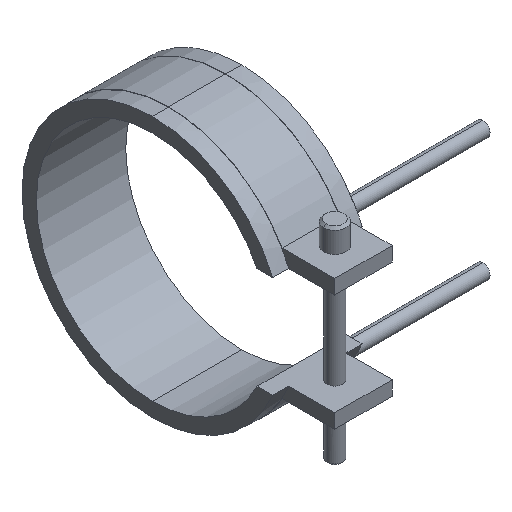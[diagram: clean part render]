
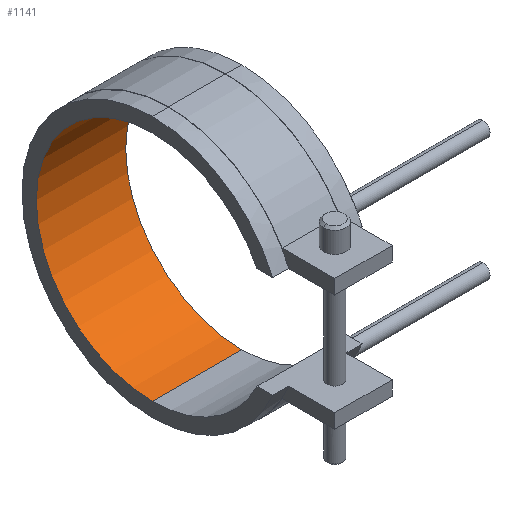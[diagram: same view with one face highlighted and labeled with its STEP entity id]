
A CAD part, isometric view. The second image highlights one B-rep face of the part: STEP entity #1141.
In plain terms, the highlighted cylindrical face has radius 32.5 mm (diameter 65 mm), a partial arc.
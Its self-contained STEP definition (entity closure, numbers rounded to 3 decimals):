
#822=CARTESIAN_POINT('Vertex',(-12.5,0.,-32.5)) ;
#829=CARTESIAN_POINT('Vertex',(12.5,0.,-32.5)) ;
#832=CARTESIAN_POINT('Line Origine',(12.5,0.,-32.5)) ;
#850=CARTESIAN_POINT('Axis2P3D Location',(-12.5,0.,0.)) ;
#854=CARTESIAN_POINT('Vertex',(-12.5,0.,32.5)) ;
#911=CARTESIAN_POINT('Vertex',(12.5,0.,32.5)) ;
#921=CARTESIAN_POINT('Line Origine',(12.5,0.,32.5)) ;
#1012=CARTESIAN_POINT('Axis2P3D Location',(12.5,0.,0.)) ;
#1130=CARTESIAN_POINT('Axis2P3D Location',(12.5,0.,0.)) ;
#833=DIRECTION('Vector Direction',(1.,0.,0.)) ;
#851=DIRECTION('Axis2P3D Direction',(1.,0.,0.)) ;
#922=DIRECTION('Vector Direction',(1.,0.,0.)) ;
#1013=DIRECTION('Axis2P3D Direction',(1.,0.,0.)) ;
#1131=DIRECTION('Axis2P3D Direction',(1.,0.,-0.)) ;
#1132=DIRECTION('Axis2P3D XDirection',(0.,0.,-1.)) ;
#852=AXIS2_PLACEMENT_3D('Circle Axis2P3D',#850,#851,$) ;
#1014=AXIS2_PLACEMENT_3D('Circle Axis2P3D',#1012,#1013,$) ;
#1133=AXIS2_PLACEMENT_3D('Cylinder Axis2P3D',#1130,#1131,#1132) ;
#1136=ORIENTED_EDGE('',*,*,#1016,.T.) ;
#1137=ORIENTED_EDGE('',*,*,#925,.T.) ;
#1138=ORIENTED_EDGE('',*,*,#856,.F.) ;
#1139=ORIENTED_EDGE('',*,*,#836,.T.) ;
#834=VECTOR('Line Direction',#833,1.) ;
#923=VECTOR('Line Direction',#922,1.) ;
#1141=ADVANCED_FACE('14065025',(#1140),#1134,.F.) ;
#853=CIRCLE('generated circle',#852,32.5) ;
#1015=CIRCLE('generated circle',#1014,32.5) ;
#1134=CYLINDRICAL_SURFACE('generated cylinder',#1133,32.5) ;
#836=EDGE_CURVE('',#823,#830,#835,.T.) ;
#856=EDGE_CURVE('',#823,#855,#853,.T.) ;
#925=EDGE_CURVE('',#912,#855,#924,.F.) ;
#1016=EDGE_CURVE('',#830,#912,#1015,.T.) ;
#1135=EDGE_LOOP('',(#1136,#1137,#1138,#1139)) ;
#1140=FACE_OUTER_BOUND('',#1135,.T.) ;
#835=LINE('Line',#832,#834) ;
#924=LINE('Line',#921,#923) ;
#823=VERTEX_POINT('',#822) ;
#830=VERTEX_POINT('',#829) ;
#855=VERTEX_POINT('',#854) ;
#912=VERTEX_POINT('',#911) ;
